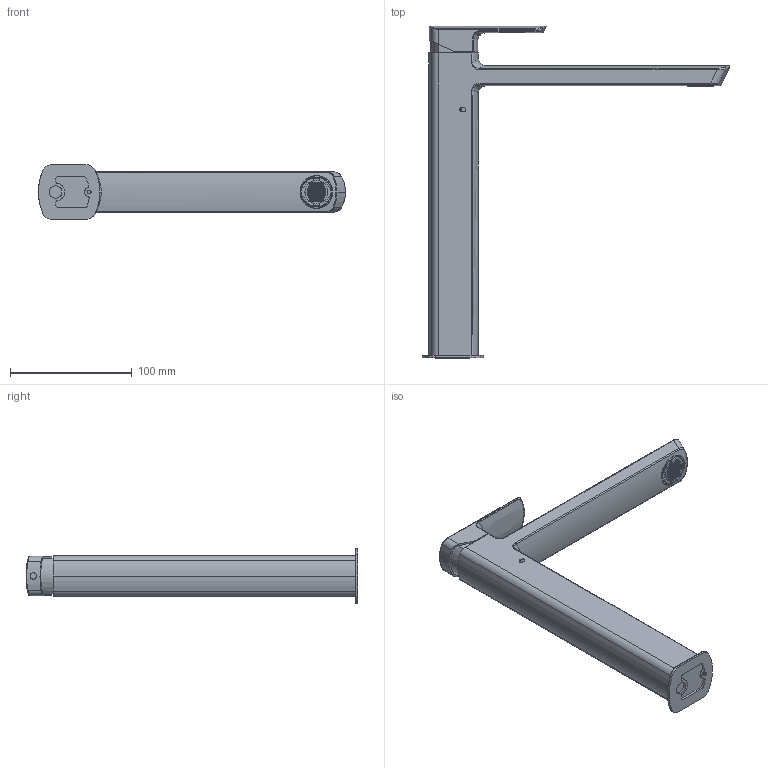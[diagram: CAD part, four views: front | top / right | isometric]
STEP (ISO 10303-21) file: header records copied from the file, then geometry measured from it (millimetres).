
FILE_DESCRIPTION (( 'STEP AP214' ), '1' );
FILE_NAME ('56301810 x architetti.STEP', '2024-05-09T14:00:15', ( '' ), ( '' ), 'SwSTEP 2.0', 'SolidWorks 2020', '' );
FILE_SCHEMA (( 'AUTOMOTIVE_DESIGN' ));
Length unit declared in the file: millimetre
Products named in the file (1): 56301810 x architetti
Bounding box: 252.13 x 272.5 x 45 mm (x, y, z)
Volume: 450720.3 mm3; surface area: 67294.9 mm2
Topology: 2 solids, 6 shells, 1294 faces, 3145 edges, 2078 vertices
Faces by surface type: plane 907, cylinder 294, bspline 90, cone 3
Entity records: 59152 total; most frequent: CARTESIAN_POINT 17433, ORIENTED_EDGE 6284, DIRECTION 5757, EDGE_CURVE 3142, LINE 2311, VECTOR 2311, VERTEX_POINT 2078, AXIS2_PLACEMENT_3D 1723
